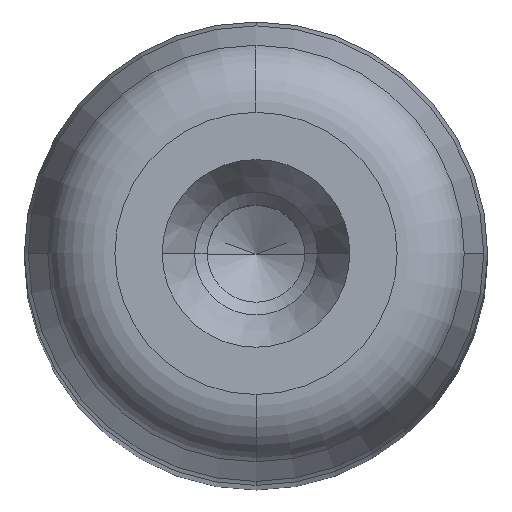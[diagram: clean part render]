
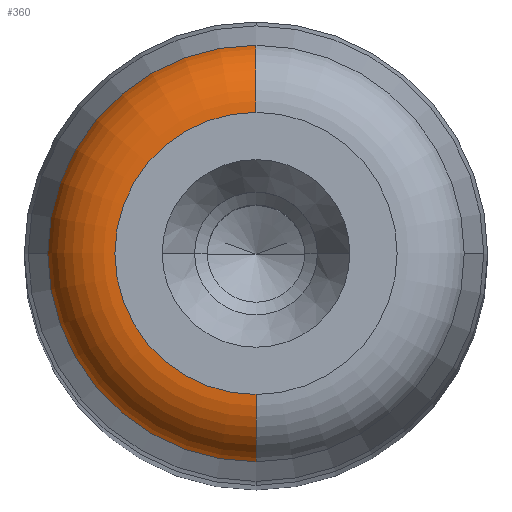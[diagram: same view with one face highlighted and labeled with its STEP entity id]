
A CAD part, top view. The second image highlights one B-rep face of the part: STEP entity #360.
In plain terms, the highlighted toroidal (fillet/blend) face has major radius 6.09 mm and minor radius 3 mm.
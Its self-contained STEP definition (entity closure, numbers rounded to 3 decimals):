
#308=CARTESIAN_POINT('',(0.0,122.0,0.0));
#309=DIRECTION('',(0.0,1.0,0.0));
#310=DIRECTION('',(0.0,0.0,1.0));
#311=AXIS2_PLACEMENT_3D('',#308,#309,#310);
#312=TOROIDAL_SURFACE('',#311,6.09,3.0);
#313=CARTESIAN_POINT('',(0.0,125.0,6.09));
#314=VERTEX_POINT('',#313);
#315=CARTESIAN_POINT('',(0.0,122.776,8.988));
#316=VERTEX_POINT('',#315);
#317=CARTESIAN_POINT('',(0.0,122.0,6.09));
#318=DIRECTION('',(1.0,0.0,0.0));
#319=DIRECTION('',(0.0,0.0,1.0));
#320=AXIS2_PLACEMENT_3D('',#317,#318,#319);
#321=CIRCLE('',#320,3.);
#322=EDGE_CURVE('',#314,#316,#321,.T.);
#323=ORIENTED_EDGE('',*,*,#322,.F.);
#324=CARTESIAN_POINT('',(0.,125.0,-6.09));
#325=VERTEX_POINT('',#324);
#326=CARTESIAN_POINT('',(0.0,125.0,0.0));
#327=DIRECTION('',(0.0,1.0,0.0));
#328=DIRECTION('',(1.0,0.0,0.0));
#329=AXIS2_PLACEMENT_3D('',#326,#327,#328);
#330=CIRCLE('',#329,6.09);
#331=EDGE_CURVE('',#325,#314,#330,.T.);
#332=ORIENTED_EDGE('',*,*,#331,.F.);
#333=CARTESIAN_POINT('',(0.,122.776,-8.988));
#334=VERTEX_POINT('',#333);
#335=CARTESIAN_POINT('',(0.,122.0,-6.09));
#336=DIRECTION('',(-1.0,0.0,0.0));
#337=DIRECTION('',(0.0,0.0,-1.0));
#338=AXIS2_PLACEMENT_3D('',#335,#336,#337);
#339=CIRCLE('',#338,3.);
#340=EDGE_CURVE('',#325,#334,#339,.T.);
#341=ORIENTED_EDGE('',*,*,#340,.T.);
#342=CARTESIAN_POINT('',(-8.988,122.776,0.));
#343=VERTEX_POINT('',#342);
#344=CARTESIAN_POINT('',(0.0,122.776,0.0));
#345=DIRECTION('',(0.0,1.0,0.0));
#346=DIRECTION('',(1.0,0.0,0.0));
#347=AXIS2_PLACEMENT_3D('',#344,#345,#346);
#348=CIRCLE('',#347,8.988);
#349=EDGE_CURVE('',#334,#343,#348,.T.);
#350=ORIENTED_EDGE('',*,*,#349,.T.);
#351=CARTESIAN_POINT('',(0.0,122.776,0.0));
#352=DIRECTION('',(0.0,1.0,0.0));
#353=DIRECTION('',(1.0,0.0,0.0));
#354=AXIS2_PLACEMENT_3D('',#351,#352,#353);
#355=CIRCLE('',#354,8.988);
#356=EDGE_CURVE('',#343,#316,#355,.T.);
#357=ORIENTED_EDGE('',*,*,#356,.T.);
#358=EDGE_LOOP('',(#323,#332,#341,#350,#357));
#359=FACE_OUTER_BOUND('',#358,.T.);
#360=ADVANCED_FACE('',(#359),#312,.T.);
